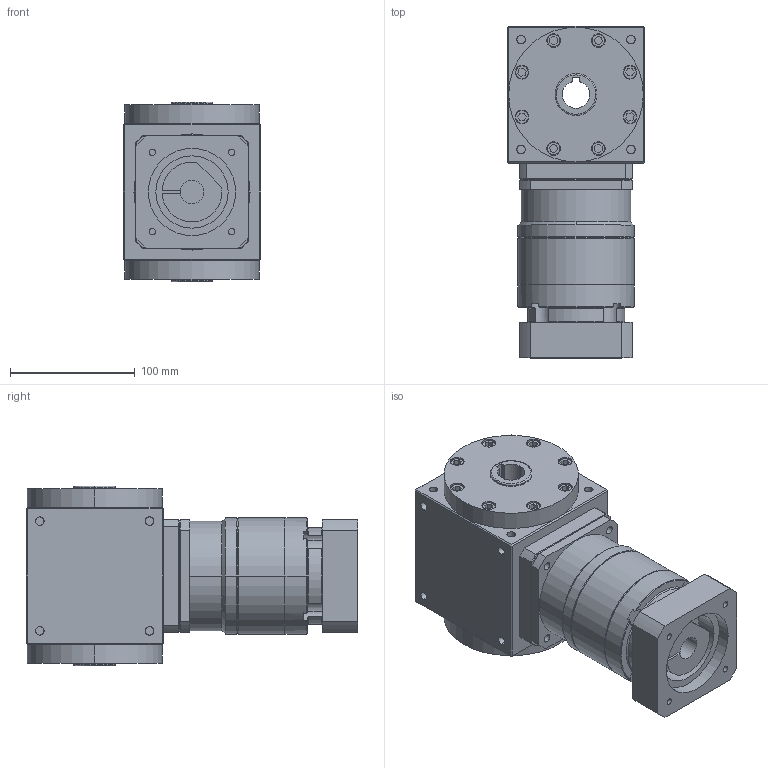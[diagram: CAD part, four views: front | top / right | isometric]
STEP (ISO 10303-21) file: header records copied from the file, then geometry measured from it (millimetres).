
FILE_DESCRIPTION (( 'STEP AP203' ), '1' );
FILE_NAME ('AT110-FH-L2 19-70-90-M6.STEP', '2024-12-20T00:48:50', ( '' ), ( '' ), 'SwSTEP 2.0', 'SolidWorks 2021', '' );
FILE_SCHEMA (( 'CONFIG_CONTROL_DESIGN' ));
Length unit declared in the file: millimetre
Products named in the file (3): AT110-FH; VRB-090-L2-S2-P1 19-70-90-M6; AT110-FH-L2 19-70-90-M6
Assembly tree (2 placements, depth 2):
  AT110-FH-L2 19-70-90-M6
    AT110-FH
    VRB-090-L2-S2-P1 19-70-90-M6
Bounding box: 110 x 266 x 144 mm (x, y, z)
Volume: 2606079.5 mm3; surface area: 194126 mm2
Topology: 2 solids, 2 shells, 540 faces, 1297 edges, 822 vertices
Faces by surface type: plane 255, cylinder 226, cone 49, bspline 10
Entity records: 16389 total; most frequent: CARTESIAN_POINT 3547, DIRECTION 2654, ORIENTED_EDGE 2590, EDGE_CURVE 1295, AXIS2_PLACEMENT_3D 989, VERTEX_POINT 822, VECTOR 676, LINE 676
